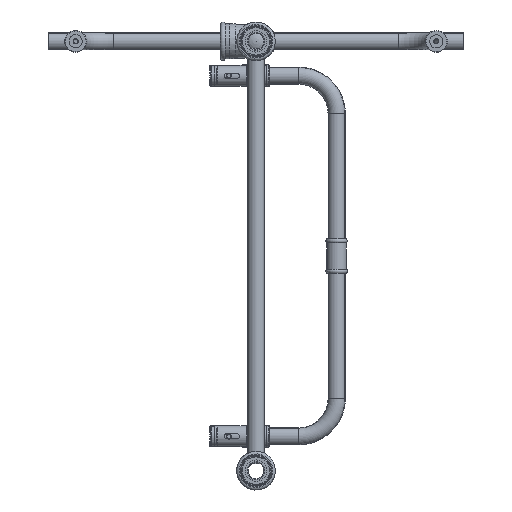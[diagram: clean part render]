
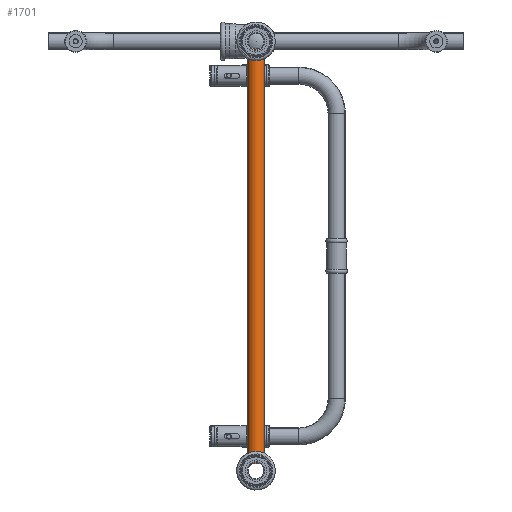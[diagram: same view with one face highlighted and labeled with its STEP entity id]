
A CAD part, front view. The second image highlights one B-rep face of the part: STEP entity #1701.
In plain terms, the highlighted cylindrical face has radius 10 mm (diameter 20 mm), a full revolution.
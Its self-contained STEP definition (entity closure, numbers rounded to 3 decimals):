
#1701 = ADVANCED_FACE( '', ( #3616, #3617 ), #3618, .T. );
#3616 = FACE_OUTER_BOUND( '', #5660, .T. );
#3617 = FACE_OUTER_BOUND( '', #5661, .T. );
#3618 = CYLINDRICAL_SURFACE( '', #5662, 10. );
#5660 = EDGE_LOOP( '', ( #8329 ) );
#5661 = EDGE_LOOP( '', ( #8330 ) );
#5662 = AXIS2_PLACEMENT_3D( '', #8331, #8332, #8333 );
#8329 = ORIENTED_EDGE( '', *, *, #9094, .T. );
#8330 = ORIENTED_EDGE( '', *, *, #9185, .F. );
#8331 = CARTESIAN_POINT( '', ( 242., 0., 0. ) );
#8332 = DIRECTION( '', ( 1., 0., 0. ) );
#8333 = DIRECTION( '', ( 0., 0., 1. ) );
#9094 = EDGE_CURVE( '', #10375, #10375, #10376, .T. );
#9185 = EDGE_CURVE( '', #10489, #10489, #10490, .T. );
#10375 = VERTEX_POINT( '', #20340 );
#10376 = CIRCLE( '', #20341, 10. );
#10489 = VERTEX_POINT( '', #20919 );
#10490 = CIRCLE( '', #20920, 10. );
#20340 = CARTESIAN_POINT( '', ( 242., 10., 0. ) );
#20341 = AXIS2_PLACEMENT_3D( '', #22121, #22122, #22123 );
#20919 = CARTESIAN_POINT( '', ( -242., 10., 0. ) );
#20920 = AXIS2_PLACEMENT_3D( '', #22178, #22179, #22180 );
#22121 = CARTESIAN_POINT( '', ( 242., 0., 0. ) );
#22122 = DIRECTION( '', ( -1., 0., 0. ) );
#22123 = DIRECTION( '', ( 0., 1., 0. ) );
#22178 = CARTESIAN_POINT( '', ( -242., 0., 0. ) );
#22179 = DIRECTION( '', ( -1., 0., 0. ) );
#22180 = DIRECTION( '', ( 0., 1., 0. ) );
